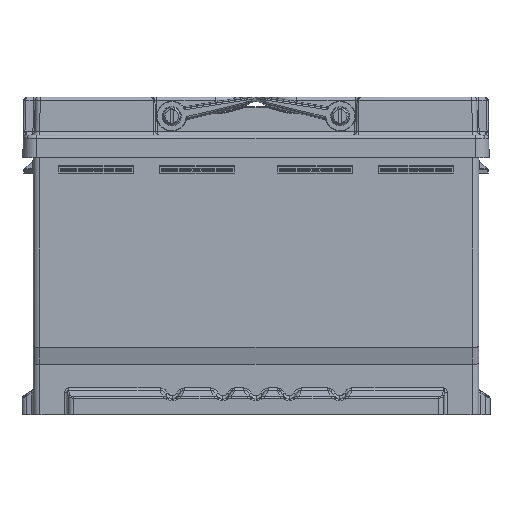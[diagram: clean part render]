
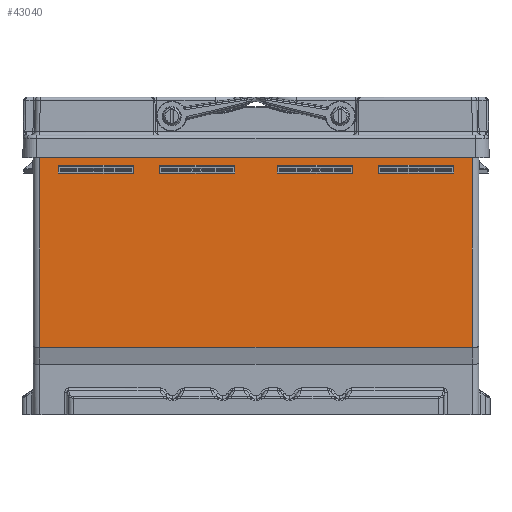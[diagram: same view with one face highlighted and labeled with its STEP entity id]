
A CAD part, left-side view. The second image highlights one B-rep face of the part: STEP entity #43040.
In plain terms, the highlighted planar face has unit normal (-1, 0, 0).
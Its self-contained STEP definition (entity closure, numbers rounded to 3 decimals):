
#30822=CARTESIAN_POINT('Line Origine',(-83.05,0.,161.)) ;
#30826=CARTESIAN_POINT('Vertex',(-83.05,-128.2,161.)) ;
#30828=CARTESIAN_POINT('Vertex',(-83.05,128.2,161.)) ;
#42874=CARTESIAN_POINT('Axis2P3D Location',(-83.05,-132.2,40.)) ;
#42879=CARTESIAN_POINT('Line Origine',(-83.05,-128.2,100.5)) ;
#42883=CARTESIAN_POINT('Vertex',(-83.05,-128.2,40.)) ;
#42886=CARTESIAN_POINT('Line Origine',(-83.05,128.2,100.5)) ;
#42890=CARTESIAN_POINT('Vertex',(-83.05,128.2,40.)) ;
#42893=CARTESIAN_POINT('Line Origine',(-83.05,0.,40.)) ;
#42904=CARTESIAN_POINT('Line Origine',(-83.05,35.,143.)) ;
#42908=CARTESIAN_POINT('Vertex',(-83.05,57.25,143.)) ;
#42910=CARTESIAN_POINT('Vertex',(-83.05,12.75,143.)) ;
#42913=CARTESIAN_POINT('Line Origine',(-83.05,57.25,145.522)) ;
#42917=CARTESIAN_POINT('Vertex',(-83.05,57.25,148.044)) ;
#42920=CARTESIAN_POINT('Line Origine',(-83.05,35.,148.044)) ;
#42924=CARTESIAN_POINT('Vertex',(-83.05,12.75,148.044)) ;
#42927=CARTESIAN_POINT('Line Origine',(-83.05,12.75,145.522)) ;
#42938=CARTESIAN_POINT('Line Origine',(-83.05,95.,143.)) ;
#42942=CARTESIAN_POINT('Vertex',(-83.05,117.25,143.)) ;
#42944=CARTESIAN_POINT('Vertex',(-83.05,72.75,143.)) ;
#42947=CARTESIAN_POINT('Line Origine',(-83.05,117.25,145.522)) ;
#42951=CARTESIAN_POINT('Vertex',(-83.05,117.25,148.044)) ;
#42954=CARTESIAN_POINT('Line Origine',(-83.05,95.,148.044)) ;
#42958=CARTESIAN_POINT('Vertex',(-83.05,72.75,148.044)) ;
#42961=CARTESIAN_POINT('Line Origine',(-83.05,72.75,145.522)) ;
#42972=CARTESIAN_POINT('Line Origine',(-83.05,-35.,143.)) ;
#42976=CARTESIAN_POINT('Vertex',(-83.05,-57.25,143.)) ;
#42978=CARTESIAN_POINT('Vertex',(-83.05,-12.75,143.)) ;
#42981=CARTESIAN_POINT('Line Origine',(-83.05,-12.75,145.522)) ;
#42985=CARTESIAN_POINT('Vertex',(-83.05,-12.75,148.044)) ;
#42988=CARTESIAN_POINT('Line Origine',(-83.05,-35.,148.044)) ;
#42992=CARTESIAN_POINT('Vertex',(-83.05,-57.25,148.044)) ;
#42995=CARTESIAN_POINT('Line Origine',(-83.05,-57.25,145.522)) ;
#43006=CARTESIAN_POINT('Line Origine',(-83.05,-95.,143.)) ;
#43010=CARTESIAN_POINT('Vertex',(-83.05,-117.25,143.)) ;
#43012=CARTESIAN_POINT('Vertex',(-83.05,-72.75,143.)) ;
#43015=CARTESIAN_POINT('Line Origine',(-83.05,-72.75,145.522)) ;
#43019=CARTESIAN_POINT('Vertex',(-83.05,-72.75,148.044)) ;
#43022=CARTESIAN_POINT('Line Origine',(-83.05,-95.,148.044)) ;
#43026=CARTESIAN_POINT('Vertex',(-83.05,-117.25,148.044)) ;
#43029=CARTESIAN_POINT('Line Origine',(-83.05,-117.25,145.522)) ;
#30823=DIRECTION('Vector Direction',(0.,1.,0.)) ;
#42875=DIRECTION('Axis2P3D Direction',(1.,-0.,0.)) ;
#42876=DIRECTION('Axis2P3D XDirection',(0.,1.,0.)) ;
#42880=DIRECTION('Vector Direction',(0.,0.,1.)) ;
#42887=DIRECTION('Vector Direction',(0.,0.,1.)) ;
#42894=DIRECTION('Vector Direction',(0.,1.,0.)) ;
#42905=DIRECTION('Vector Direction',(0.,-1.,0.)) ;
#42914=DIRECTION('Vector Direction',(0.,0.,-1.)) ;
#42921=DIRECTION('Vector Direction',(0.,1.,0.)) ;
#42928=DIRECTION('Vector Direction',(0.,0.,1.)) ;
#42939=DIRECTION('Vector Direction',(0.,-1.,0.)) ;
#42948=DIRECTION('Vector Direction',(0.,0.,-1.)) ;
#42955=DIRECTION('Vector Direction',(0.,1.,0.)) ;
#42962=DIRECTION('Vector Direction',(0.,0.,1.)) ;
#42973=DIRECTION('Vector Direction',(0.,1.,0.)) ;
#42982=DIRECTION('Vector Direction',(0.,0.,1.)) ;
#42989=DIRECTION('Vector Direction',(0.,-1.,0.)) ;
#42996=DIRECTION('Vector Direction',(0.,0.,-1.)) ;
#43007=DIRECTION('Vector Direction',(0.,1.,0.)) ;
#43016=DIRECTION('Vector Direction',(0.,0.,1.)) ;
#43023=DIRECTION('Vector Direction',(0.,-1.,0.)) ;
#43030=DIRECTION('Vector Direction',(0.,0.,-1.)) ;
#42877=AXIS2_PLACEMENT_3D('Plane Axis2P3D',#42874,#42875,#42876) ;
#42899=ORIENTED_EDGE('',*,*,#42885,.T.) ;
#42900=ORIENTED_EDGE('',*,*,#30830,.T.) ;
#42901=ORIENTED_EDGE('',*,*,#42892,.F.) ;
#42902=ORIENTED_EDGE('',*,*,#42897,.F.) ;
#42933=ORIENTED_EDGE('',*,*,#42912,.F.) ;
#42934=ORIENTED_EDGE('',*,*,#42919,.F.) ;
#42935=ORIENTED_EDGE('',*,*,#42926,.F.) ;
#42936=ORIENTED_EDGE('',*,*,#42931,.F.) ;
#42967=ORIENTED_EDGE('',*,*,#42946,.F.) ;
#42968=ORIENTED_EDGE('',*,*,#42953,.F.) ;
#42969=ORIENTED_EDGE('',*,*,#42960,.F.) ;
#42970=ORIENTED_EDGE('',*,*,#42965,.F.) ;
#43001=ORIENTED_EDGE('',*,*,#42980,.T.) ;
#43002=ORIENTED_EDGE('',*,*,#42987,.T.) ;
#43003=ORIENTED_EDGE('',*,*,#42994,.T.) ;
#43004=ORIENTED_EDGE('',*,*,#42999,.T.) ;
#43035=ORIENTED_EDGE('',*,*,#43014,.T.) ;
#43036=ORIENTED_EDGE('',*,*,#43021,.T.) ;
#43037=ORIENTED_EDGE('',*,*,#43028,.T.) ;
#43038=ORIENTED_EDGE('',*,*,#43033,.T.) ;
#42937=FACE_BOUND('',#42932,.T.) ;
#42971=FACE_BOUND('',#42966,.T.) ;
#43005=FACE_BOUND('',#43000,.T.) ;
#43039=FACE_BOUND('',#43034,.T.) ;
#30824=VECTOR('Line Direction',#30823,1.) ;
#42881=VECTOR('Line Direction',#42880,1.) ;
#42888=VECTOR('Line Direction',#42887,1.) ;
#42895=VECTOR('Line Direction',#42894,1.) ;
#42906=VECTOR('Line Direction',#42905,1.) ;
#42915=VECTOR('Line Direction',#42914,1.) ;
#42922=VECTOR('Line Direction',#42921,1.) ;
#42929=VECTOR('Line Direction',#42928,1.) ;
#42940=VECTOR('Line Direction',#42939,1.) ;
#42949=VECTOR('Line Direction',#42948,1.) ;
#42956=VECTOR('Line Direction',#42955,1.) ;
#42963=VECTOR('Line Direction',#42962,1.) ;
#42974=VECTOR('Line Direction',#42973,1.) ;
#42983=VECTOR('Line Direction',#42982,1.) ;
#42990=VECTOR('Line Direction',#42989,1.) ;
#42997=VECTOR('Line Direction',#42996,1.) ;
#43008=VECTOR('Line Direction',#43007,1.) ;
#43017=VECTOR('Line Direction',#43016,1.) ;
#43024=VECTOR('Line Direction',#43023,1.) ;
#43031=VECTOR('Line Direction',#43030,1.) ;
#43040=ADVANCED_FACE('BATTERY_AGM_LN3(H6)_BHMC',(#42903,#42937,#42971,#43005,#43039),#42878,.F.) ;
#30830=EDGE_CURVE('',#30827,#30829,#30825,.T.) ;
#42885=EDGE_CURVE('',#42884,#30827,#42882,.T.) ;
#42892=EDGE_CURVE('',#42891,#30829,#42889,.T.) ;
#42897=EDGE_CURVE('',#42884,#42891,#42896,.T.) ;
#42912=EDGE_CURVE('',#42909,#42911,#42907,.T.) ;
#42919=EDGE_CURVE('',#42918,#42909,#42916,.T.) ;
#42926=EDGE_CURVE('',#42925,#42918,#42923,.T.) ;
#42931=EDGE_CURVE('',#42911,#42925,#42930,.T.) ;
#42946=EDGE_CURVE('',#42943,#42945,#42941,.T.) ;
#42953=EDGE_CURVE('',#42952,#42943,#42950,.T.) ;
#42960=EDGE_CURVE('',#42959,#42952,#42957,.T.) ;
#42965=EDGE_CURVE('',#42945,#42959,#42964,.T.) ;
#42980=EDGE_CURVE('',#42977,#42979,#42975,.T.) ;
#42987=EDGE_CURVE('',#42979,#42986,#42984,.T.) ;
#42994=EDGE_CURVE('',#42986,#42993,#42991,.T.) ;
#42999=EDGE_CURVE('',#42993,#42977,#42998,.T.) ;
#43014=EDGE_CURVE('',#43011,#43013,#43009,.T.) ;
#43021=EDGE_CURVE('',#43013,#43020,#43018,.T.) ;
#43028=EDGE_CURVE('',#43020,#43027,#43025,.T.) ;
#43033=EDGE_CURVE('',#43027,#43011,#43032,.T.) ;
#42898=EDGE_LOOP('',(#42899,#42900,#42901,#42902)) ;
#42932=EDGE_LOOP('',(#42933,#42934,#42935,#42936)) ;
#42966=EDGE_LOOP('',(#42967,#42968,#42969,#42970)) ;
#43000=EDGE_LOOP('',(#43001,#43002,#43003,#43004)) ;
#43034=EDGE_LOOP('',(#43035,#43036,#43037,#43038)) ;
#42903=FACE_OUTER_BOUND('',#42898,.T.) ;
#30825=LINE('Line',#30822,#30824) ;
#42882=LINE('Line',#42879,#42881) ;
#42889=LINE('Line',#42886,#42888) ;
#42896=LINE('Line',#42893,#42895) ;
#42907=LINE('Line',#42904,#42906) ;
#42916=LINE('Line',#42913,#42915) ;
#42923=LINE('Line',#42920,#42922) ;
#42930=LINE('Line',#42927,#42929) ;
#42941=LINE('Line',#42938,#42940) ;
#42950=LINE('Line',#42947,#42949) ;
#42957=LINE('Line',#42954,#42956) ;
#42964=LINE('Line',#42961,#42963) ;
#42975=LINE('Line',#42972,#42974) ;
#42984=LINE('Line',#42981,#42983) ;
#42991=LINE('Line',#42988,#42990) ;
#42998=LINE('Line',#42995,#42997) ;
#43009=LINE('Line',#43006,#43008) ;
#43018=LINE('Line',#43015,#43017) ;
#43025=LINE('Line',#43022,#43024) ;
#43032=LINE('Line',#43029,#43031) ;
#42878=PLANE('Plane',#42877) ;
#30827=VERTEX_POINT('',#30826) ;
#30829=VERTEX_POINT('',#30828) ;
#42884=VERTEX_POINT('',#42883) ;
#42891=VERTEX_POINT('',#42890) ;
#42909=VERTEX_POINT('',#42908) ;
#42911=VERTEX_POINT('',#42910) ;
#42918=VERTEX_POINT('',#42917) ;
#42925=VERTEX_POINT('',#42924) ;
#42943=VERTEX_POINT('',#42942) ;
#42945=VERTEX_POINT('',#42944) ;
#42952=VERTEX_POINT('',#42951) ;
#42959=VERTEX_POINT('',#42958) ;
#42977=VERTEX_POINT('',#42976) ;
#42979=VERTEX_POINT('',#42978) ;
#42986=VERTEX_POINT('',#42985) ;
#42993=VERTEX_POINT('',#42992) ;
#43011=VERTEX_POINT('',#43010) ;
#43013=VERTEX_POINT('',#43012) ;
#43020=VERTEX_POINT('',#43019) ;
#43027=VERTEX_POINT('',#43026) ;
